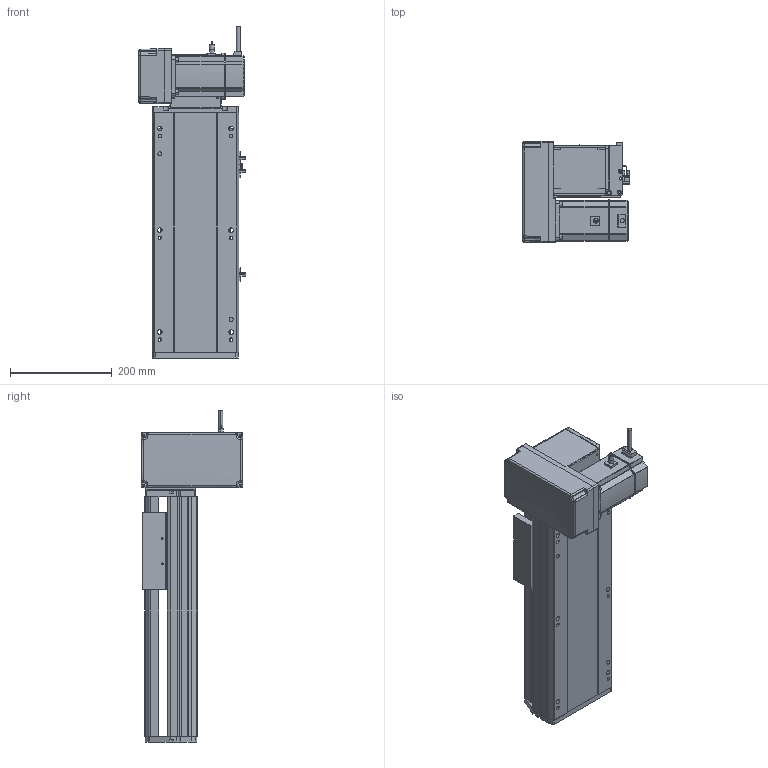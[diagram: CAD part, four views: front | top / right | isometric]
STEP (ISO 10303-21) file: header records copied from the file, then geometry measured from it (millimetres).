
FILE_DESCRIPTION (( 'STEP AP214' ), '1' );
FILE_NAME ('RTB17S-XX-200-LM-M75-C4.STEP', '2025-12-12T00:33:38', ( '' ), ( '' ), 'SwSTEP 2.0', 'SolidWorks 2018', '' );
FILE_SCHEMA (( 'AUTOMOTIVE_DESIGN' ));
Length unit declared in the file: millimetre
Products named in the file (15): RTB17S-L-014-T20-P75--々湍釱^RTB17S-LM-々湍釱蚾饜-750W_RTB17S-XX-XX-LM-M75-C4; RTB17S-XX-200-LM-M75-C4; RTB17S-L-001-耜醱啣^RTB17S-XX-XX-LM-M75-C4; RTH13-BL-012覜茼え俋离^RTB17S-賑釱_RTB17S-XX-XX-LM-M75-C4; RTB17S-L-004-賑釱^RTB17S-賑釱_RTB17S-XX-XX-LM-M75-C4; RTB17S-賑釱^RTB17S-XX-XX-LM-M75-C4; RTB22S-GY-018P^RTB17S-LM-々湍釱蚾饜-750W_RTB17S-XX-XX-LM-M75-C4; RTB22S-GY-008-M75--萇儂啣^RTB17S-LM-々湍釱蚾饜-750W_RTB17S-XX-XX-LM-M75-C4; RTB17S-LM-々湍釱蚾饜-750W^RTB17S-XX-XX-LM-M75-C4; RTB22S-GY-005P^RTB17S-LM-々湍釱蚾饜-750W_RTB17S-XX-XX-LM-M75-C4; EE672^RTB17S-XX-XX-LM-M75-C4; RTB17-R-011菁釱^RTB17S-XX-XX-LM-M75-C4; RTB22S-GY-017P^RTB17S-LM-々湍釱蚾饜-750W_RTB17S-XX-XX-LM-M75-C4; RTB17S-L-007奻裔^RTB17S-XX-XX-LM-M75-C4; 750W萇儂^RTB17S-XX-XX-LM-M75-C4
Assembly tree (17 placements, depth 3):
  RTB17S-XX-200-LM-M75-C4
    RTB17-R-011菁釱^RTB17S-XX-XX-LM-M75-C4
    EE672^RTB17S-XX-XX-LM-M75-C4  x3
    RTB17S-L-001-耜醱啣^RTB17S-XX-XX-LM-M75-C4
    RTB17S-賑釱^RTB17S-XX-XX-LM-M75-C4
      RTB17S-L-004-賑釱^RTB17S-賑釱_RTB17S-XX-XX-LM-M75-C4
      RTH13-BL-012覜茼え俋离^RTB17S-賑釱_RTB17S-XX-XX-LM-M75-C4
    RTB17S-L-007奻裔^RTB17S-XX-XX-LM-M75-C4
    750W萇儂^RTB17S-XX-XX-LM-M75-C4
    RTB17S-LM-々湍釱蚾饜-750W^RTB17S-XX-XX-LM-M75-C4
      RTB17S-L-014-T20-P75--々湍釱^RTB17S-LM-々湍釱蚾饜-750W_RTB17S-XX-XX-LM-M75-C4
      RTB22S-GY-005P^RTB17S-LM-々湍釱蚾饜-750W_RTB17S-XX-XX-LM-M75-C4
      RTB22S-GY-017P^RTB17S-LM-々湍釱蚾饜-750W_RTB17S-XX-XX-LM-M75-C4  x2
      RTB22S-GY-008-M75--萇儂啣^RTB17S-LM-々湍釱蚾饜-750W_RTB17S-XX-XX-LM-M75-C4
      RTB22S-GY-018P^RTB17S-LM-々湍釱蚾饜-750W_RTB17S-XX-XX-LM-M75-C4
Bounding box: 210.4 x 200 x 652.2 mm (x, y, z)
Volume: 7202833.1 mm3; surface area: 1087356.4 mm2
Topology: 17 solids, 17 shells, 2025 faces, 5566 edges, 3590 vertices
Faces by surface type: plane 962, cylinder 647, bspline 294, cone 110, sphere 8, torus 4
Entity records: 55030 total; most frequent: CARTESIAN_POINT 16030, ORIENTED_EDGE 7976, DIRECTION 7502, EDGE_CURVE 3988, AXIS2_PLACEMENT_3D 2610, VERTEX_POINT 2594, LINE 2282, VECTOR 2282
